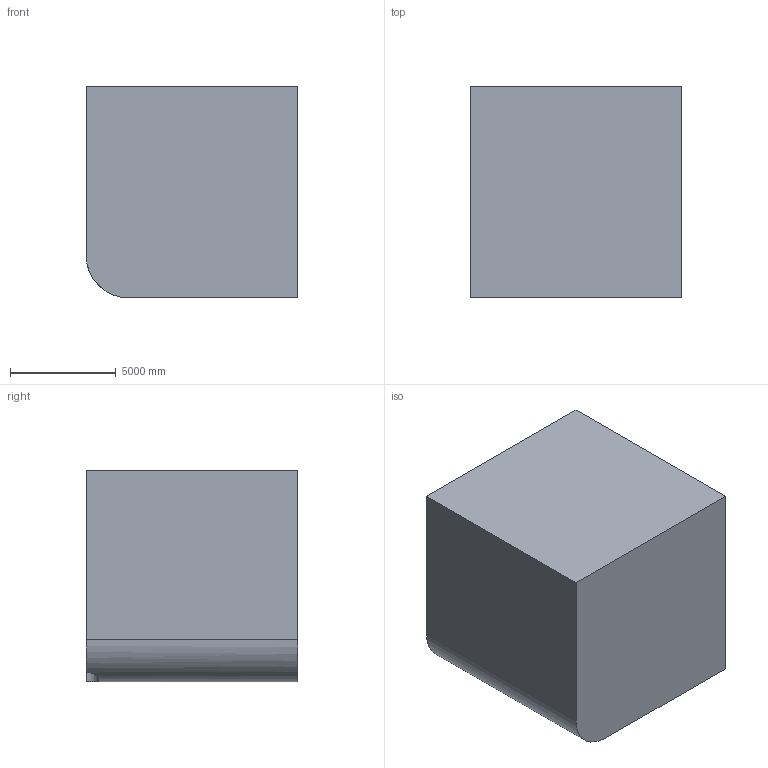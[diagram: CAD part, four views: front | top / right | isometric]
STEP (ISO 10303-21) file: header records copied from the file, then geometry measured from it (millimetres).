
FILE_DESCRIPTION (( 'STEP AP203' ), '1' );
FILE_NAME ('1081.STEP', '2022-08-18T12:41:02', ( 'user' ), ( '' ), 'SwSTEP 2.0', 'SolidWorks 2021', '' );
FILE_SCHEMA (( 'CONFIG_CONTROL_DESIGN' ));
Length unit declared in the file: centimetre
Products named in the file (1): 1081
Bounding box: 10000 x 10000 x 10000 mm (x, y, z)
Volume: 971862680162.3 mm3; surface area: 592587684.4 mm2
Topology: 1 solids, 1 shells, 11 faces, 27 edges, 18 vertices
Faces by surface type: plane 8, cylinder 3
Entity records: 457 total; most frequent: CARTESIAN_POINT 112, DIRECTION 56, ORIENTED_EDGE 54, EDGE_CURVE 27, VECTOR 20, LINE 20, VERTEX_POINT 18, AXIS2_PLACEMENT_3D 18
